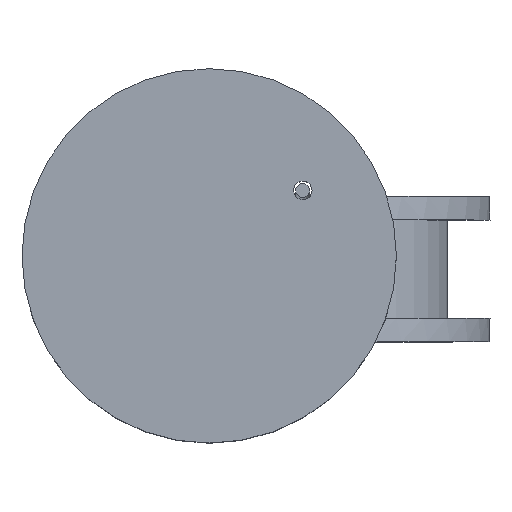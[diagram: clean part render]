
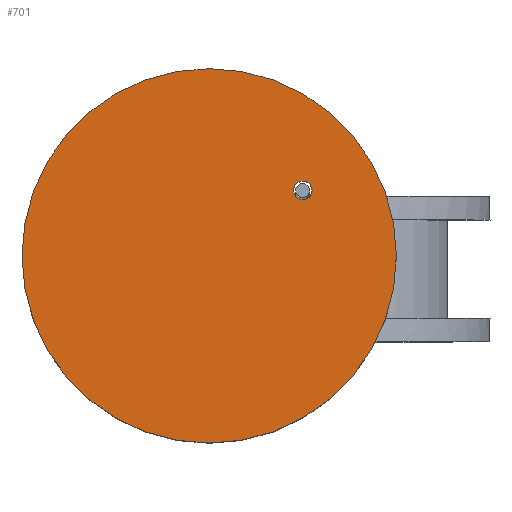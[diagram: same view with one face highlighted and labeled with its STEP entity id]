
A CAD part, top view. The second image highlights one B-rep face of the part: STEP entity #701.
In plain terms, the highlighted planar face has unit normal (0, 0, 1).
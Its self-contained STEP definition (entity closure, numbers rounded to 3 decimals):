
#22=FACE_BOUND('',#146,.T.);
#34=PLANE('',#792);
#101=FACE_OUTER_BOUND('',#145,.T.);
#145=EDGE_LOOP('',(#565));
#146=EDGE_LOOP('',(#566));
#246=CIRCLE('',#790,1.);
#248=CIRCLE('',#793,20.);
#309=VERTEX_POINT('',#1887);
#311=VERTEX_POINT('',#1893);
#397=EDGE_CURVE('',#309,#309,#246,.T.);
#400=EDGE_CURVE('',#311,#311,#248,.T.);
#565=ORIENTED_EDGE('',*,*,#400,.F.);
#566=ORIENTED_EDGE('',*,*,#397,.F.);
#701=ADVANCED_FACE('',(#101,#22),#34,.F.);
#790=AXIS2_PLACEMENT_3D('',#1888,#943,#944);
#792=AXIS2_PLACEMENT_3D('',#1892,#948,#949);
#793=AXIS2_PLACEMENT_3D('',#1894,#950,#951);
#943=DIRECTION('center_axis',(0.,0.,
1.));
#944=DIRECTION('ref_axis',(-1.,0.,0.));
#948=DIRECTION('center_axis',(0.,0.,
-1.));
#949=DIRECTION('ref_axis',(0.,-1.,0.));
#950=DIRECTION('center_axis',(0.,0.,
-1.));
#951=DIRECTION('ref_axis',(1.,0.,0.));
#1887=CARTESIAN_POINT('',(1.,7.,820.));
#1888=CARTESIAN_POINT('Origin',(0.,7.,820.));
#1892=CARTESIAN_POINT('Origin',(-10.,0.,820.));
#1893=CARTESIAN_POINT('',(-30.,0.,820.));
#1894=CARTESIAN_POINT('Origin',(-10.,0.,820.));
